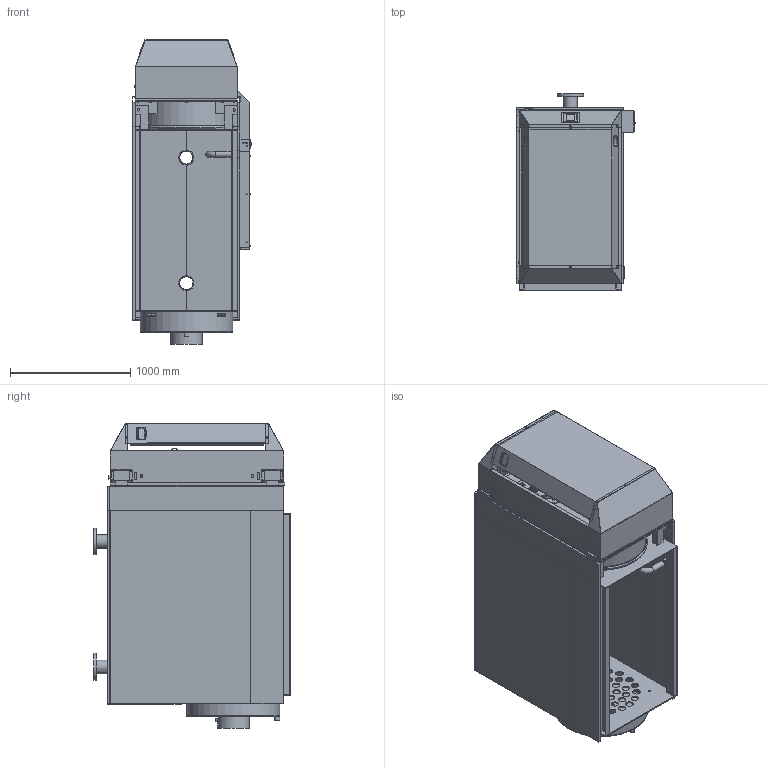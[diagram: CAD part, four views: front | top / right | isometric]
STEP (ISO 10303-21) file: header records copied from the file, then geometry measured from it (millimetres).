
FILE_DESCRIPTION (( 'STEP AP203' ), '1' );
FILE_NAME ('GT3 350.STEP', '2019-03-07T16:39:48', ( '' ), ( '' ), 'SwSTEP 2.0', 'SolidWorks 2019', '' );
FILE_SCHEMA (( 'CONFIG_CONTROL_DESIGN' ));
Products named in the file (1): GT3 350
Bounding box: 990.73 x 1636.5 x 2540.33 mm (x, y, z)
Surface area: 33066590.2 mm2 (no closed solid volume)
Topology: 0 solids, 884 shells, 2029 faces, 10105 edges, 8737 vertices
Faces by surface type: plane 1235, cylinder 506, bspline 109, torus 87, sphere 49, cone 43
Full cylindrical faces by diameter (mm): 1.2 x5, 1.3 x9, 1.8 x1, 2.8 x1, 2.85 x4, 3 x5, 3.3 x1, 3.5 x1, 4 x3, 4.2 x12, 5 x4, 8 x9, 9 x1, 10 x2, 12 x1, 12.7 x1, 13 x3, 14 x10, 16 x2, 18 x16, 18.8 x1, 20.1 x2, 25 x1, 25.3 x1, 26.4 x1, 30 x2, 30.4 x1, 39.5 x1, 48 x1, 48.1 x1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
Entity records: 105761 total; most frequent: CARTESIAN_POINT 29826, DIRECTION 14902, ORIENTED_EDGE 11341, EDGE_CURVE 9822, VERTEX_POINT 8677, LINE 6472, VECTOR 6472, AXIS2_PLACEMENT_3D 4215
